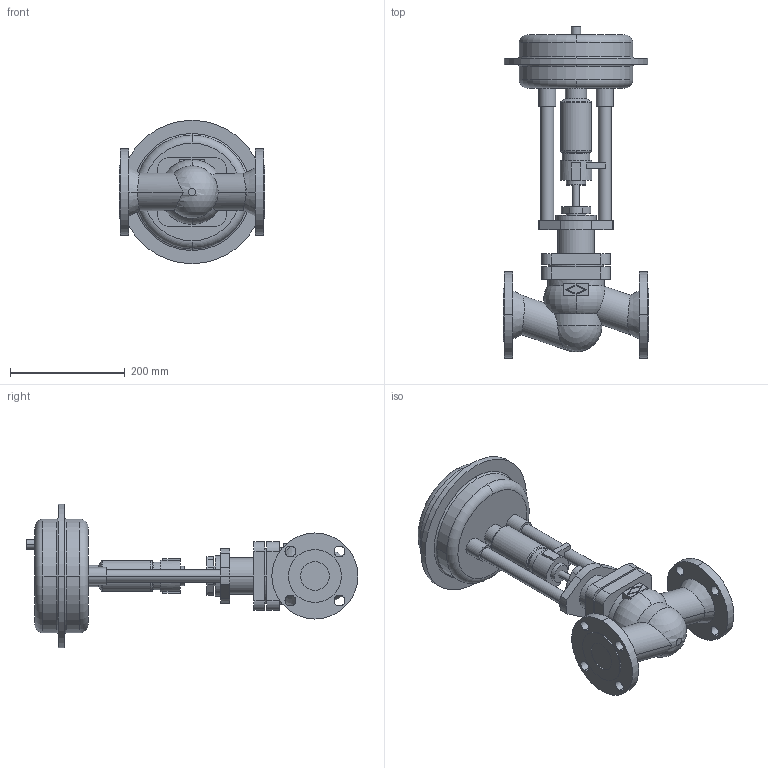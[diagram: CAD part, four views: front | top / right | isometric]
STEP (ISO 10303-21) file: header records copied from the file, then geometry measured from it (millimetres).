
FILE_DESCRIPTION( ( '' ), '1' );
FILE_NAME( 'F:/DE-SHS/TB/OR/04-Sonstiges/daten/files_3d/470-471_ANSI/470_ANSI150/c000005812.stp', '2015-10-22T06:08:55', ( '' ), ( '' ), ' ', ' ', ' ' );
FILE_SCHEMA( ( 'CONFIG_CONTROL_DESIGN' ) );
Length unit declared in the file: millimetre
Products named in the file (2): 1; 2
Bounding box: 254 x 578.5 x 250 mm (x, y, z)
Volume: 6368736.8 mm3; surface area: 445799.6 mm2
Topology: 2 solids, 2 shells, 198 faces, 505 edges, 337 vertices
Faces by surface type: cylinder 90, plane 79, torus 18, cone 10, sphere 1
Entity records: 6941 total; most frequent: CARTESIAN_POINT 1788, DIRECTION 1147, ORIENTED_EDGE 1006, EDGE_CURVE 503, AXIS2_PLACEMENT_3D 462, VERTEX_POINT 337, CIRCLE 262, EDGE_LOOP 242
